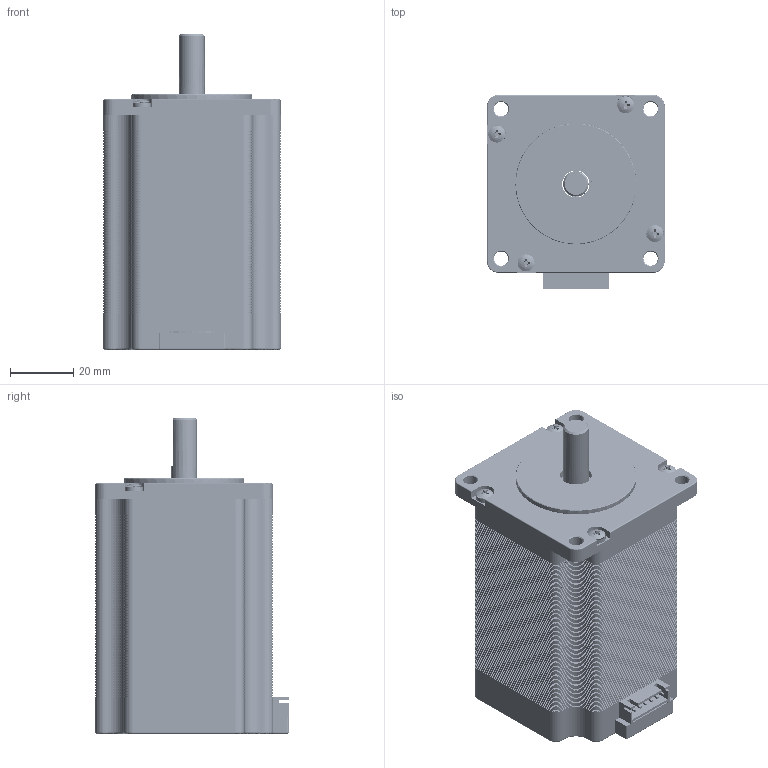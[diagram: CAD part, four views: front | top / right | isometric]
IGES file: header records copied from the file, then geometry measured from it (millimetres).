
Start section: SolidWorks IGES file using analytic representation for surfaces
Global section: file name: C:\Users\10118109\Desktop\1瞒 犁累己_2瞒 累诀_荐沥 器窃\AK-2_炼茄凯\56\A16K-G268.IGS,15HSolidWorks; native system: 2018; preprocessor: SolidWorks 2018; author: 10118109; date: 190628.094801; units: millimetre
Bounding box: 56.1 x 61 x 99.6 mm (x, y, z)
Surface area: 42690.1 mm2 (no closed solid volume)
Topology: 0 solids, 0 shells, 6380 faces, 54447 edges, 54377 vertices
Faces by surface type: bspline 3479, revolution 2901
